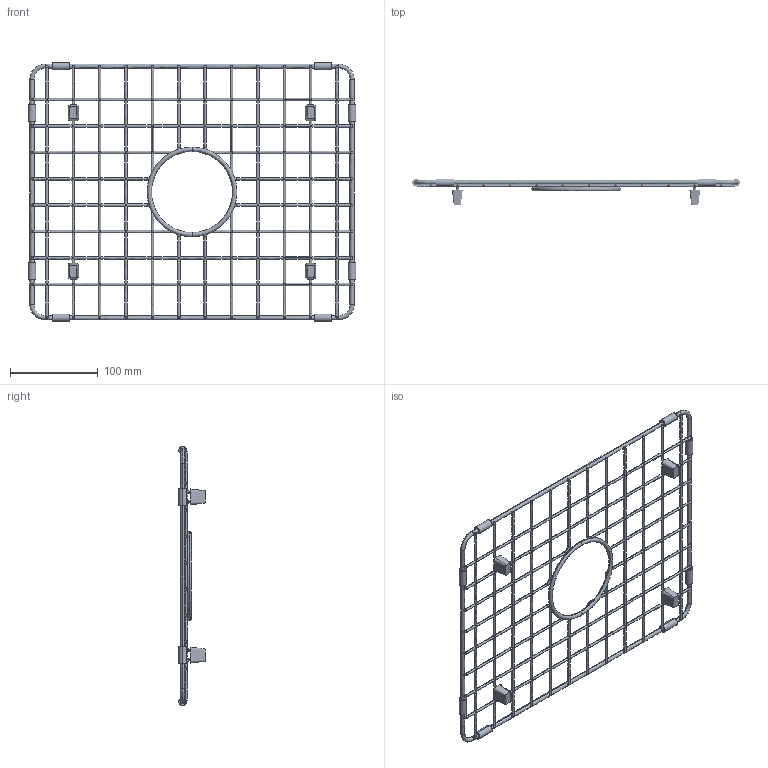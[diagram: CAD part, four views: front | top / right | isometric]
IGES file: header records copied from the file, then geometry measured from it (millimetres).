
Start section: SolidWorks IGES file using NURBS representation for surfaces
Global section: file name: \\IBMGRAU\Projectos\02-ACESSÓRIOS\Grelhas de lava-louças\4A37011 - grelha para l. louças Valet 1,5 cubas\biblioteca 3D\4A37011_igs.IGS; native system: SolidWorks 2018; preprocessor: SolidWorks 2018; author: Julio; date: 180627.155052; units: millimetre
Bounding box: 372.5 x 29.95 x 294.5 mm (x, y, z)
Surface area: 80158.1 mm2 (no closed solid volume)
Topology: 0 solids, 0 shells, 568 faces, 18680 edges, 18680 vertices
Faces by surface type: bspline 568
